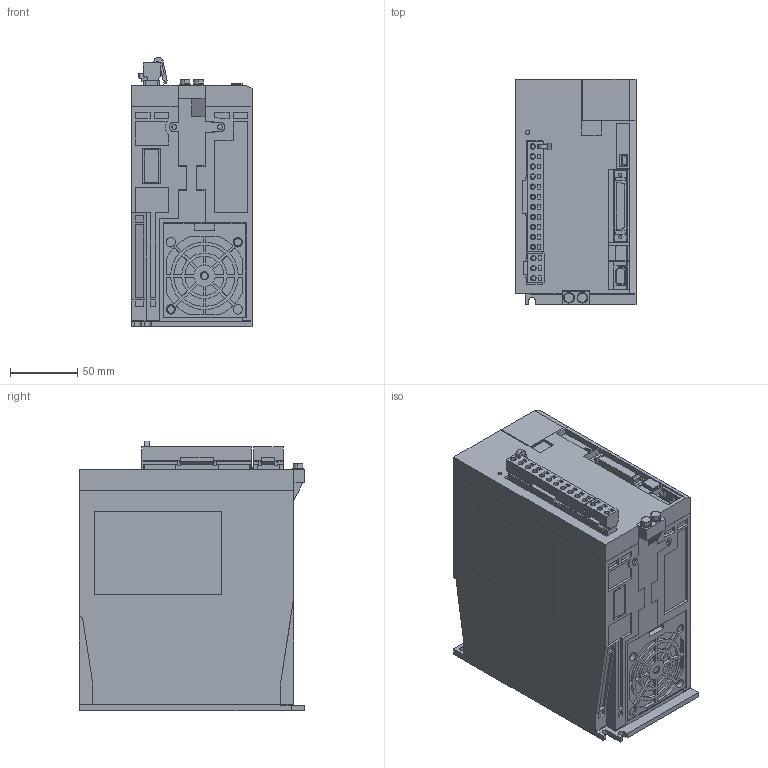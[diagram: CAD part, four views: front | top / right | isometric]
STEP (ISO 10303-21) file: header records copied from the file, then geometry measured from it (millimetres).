
FILE_DESCRIPTION((''),'2;1');
FILE_NAME('SGDXS-120A00A_ASM','2022-02-24T',('liubing_shen'),('Yaskawa Electric (Shenyang) Co.,Ltd'),'PRO/ENGINEER BY PARAMETRIC TECHNOLOGY CORPORATION, 2017170','PRO/ENGINEER BY PARAMETRIC TECHNOLOGY CORPORATION, 2017170','');
FILE_SCHEMA(('AUTOMOTIVE_DESIGN { 1 0 10303 214 1 1 1 1 }'));
Products named in the file (9): SGDXS-120A00A_BASE; SGDXS-120A00A_COVER1; SGDXS-120A00A_COVER2; SGDXS-120A00A_COVER3; SGDXS-120A00A_CONNECTOR1; SGDXS-120A00A_CONNECTOR2; SGDXS-120A00A_CONNECTOR3; SGDXS-120A00A_CONNECTOR4; SGDXS-120A00A_ASM
Assembly tree (8 placements, depth 2):
  SGDXS-120A00A_ASM
    SGDXS-120A00A_BASE
    SGDXS-120A00A_COVER1
    SGDXS-120A00A_COVER2
    SGDXS-120A00A_COVER3
    SGDXS-120A00A_CONNECTOR1
    SGDXS-120A00A_CONNECTOR2
    SGDXS-120A00A_CONNECTOR3
    SGDXS-120A00A_CONNECTOR4
Bounding box: 90.5 x 168 x 201.08 mm (x, y, z)
Volume: 2557564.2 mm3; surface area: 167539 mm2
Topology: 8 solids, 10 shells, 2014 faces, 5368 edges, 3577 vertices
Faces by surface type: plane 1724, cylinder 276, torus 8, cone 4, bspline 2
Entity records: 82521 total; most frequent: CARTESIAN_POINT 11159, ORIENTED_EDGE 10736, DIRECTION 10020, EDGE_CURVE 5368, VECTOR 4730, LINE 4730, VERTEX_POINT 3577, PRESENTATION_STYLE_ASSIGNMENT 3024
